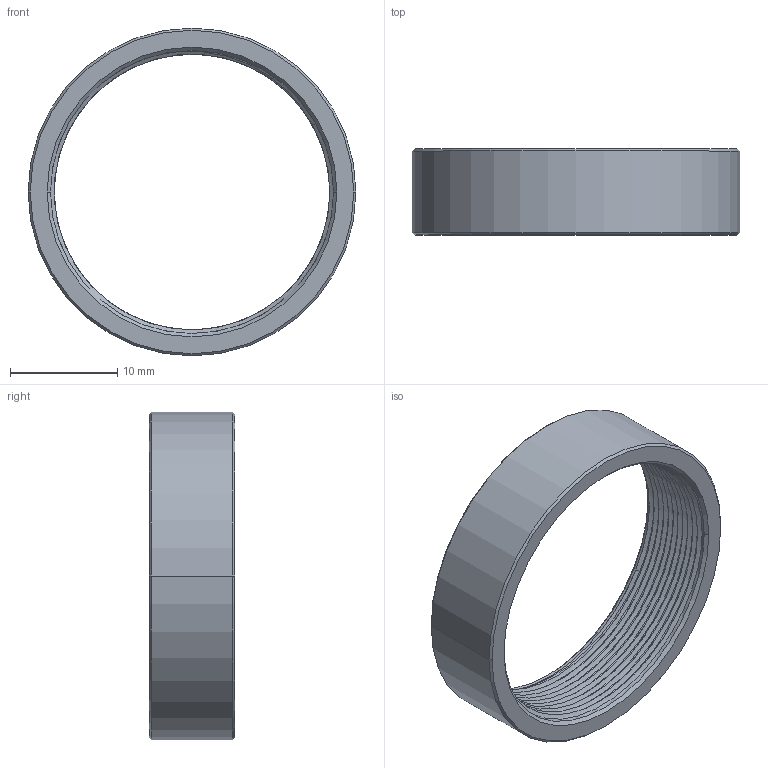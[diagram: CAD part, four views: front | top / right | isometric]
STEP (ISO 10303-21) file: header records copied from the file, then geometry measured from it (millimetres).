
FILE_DESCRIPTION((''),'2;1');
FILE_NAME('CSB-08','2020-10-15T',('Administrator'),(''),'CREO PARAMETRIC BY PTC INC, 2015290','CREO PARAMETRIC BY PTC INC, 2015290','');
FILE_SCHEMA(('CONFIG_CONTROL_DESIGN'));
Length unit declared in the file: millimetre
Products named in the file (1): CSB-08
Bounding box: 30.5 x 8 x 30.5 mm (x, y, z)
Volume: 1545 mm3; surface area: 2047.8 mm2
Topology: 1 solids, 1 shells, 44 faces, 114 edges, 72 vertices
Faces by surface type: cylinder 24, bspline 10, cone 8, plane 2
Entity records: 4389 total; most frequent: CARTESIAN_POINT 3403, ORIENTED_EDGE 228, DIRECTION 141, EDGE_CURVE 114, VERTEX_POINT 72, B_SPLINE_CURVE_WITH_KNOTS 57, AXIS2_PLACEMENT_3D 50, EDGE_LOOP 46
